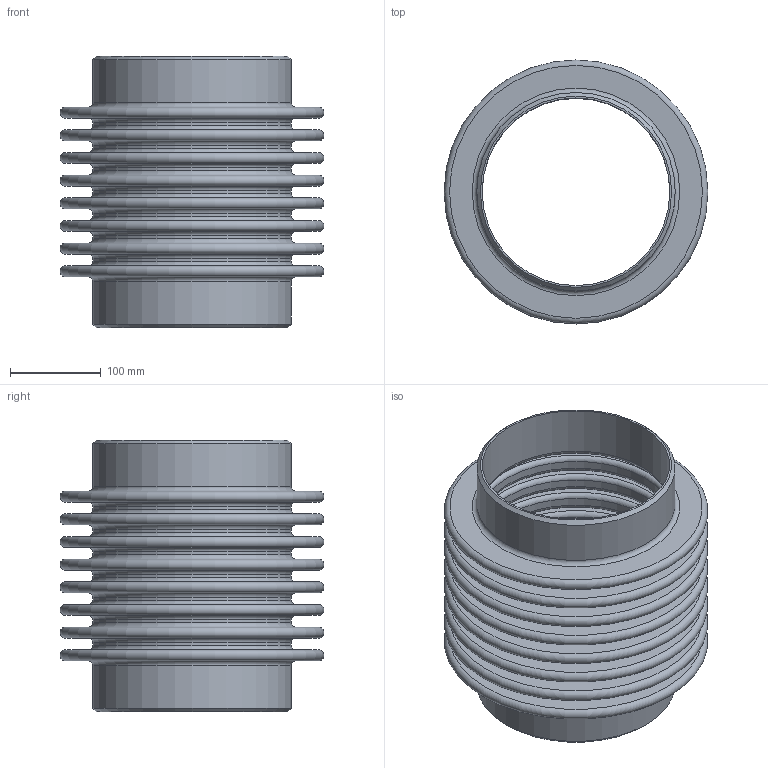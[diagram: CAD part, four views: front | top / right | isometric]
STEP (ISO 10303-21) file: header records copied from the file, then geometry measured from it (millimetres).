
FILE_DESCRIPTION(/* description */ ('D140-02127','CAx-IF Rec.Pracs.---Representation and Presentation of Product Manufacturing Information (PMI)---4.0---2014-10-13'),/* implementation_level */ '2;1');
FILE_NAME(/* name */ '',/* time_stamp */ '2026-04-13T21:39:18+03:00',/* author */ ('DN.RU'),/* organization */ ('DN.RU'),/* preprocessor_version */ 'ST-DEVELOPER v20',/* originating_system */ 'Autodesk Inventor 2025',/* authorisation */ '');
FILE_SCHEMA (('AP242_MANAGED_MODEL_BASED_3D_ENGINEERING_MIM_LF { 1 0 10303 442 1 1 4 }'));
Length unit declared in the file: millimetre
Products named in the file (1): CB-3131-W
Bounding box: 291 x 291 x 300 mm (x, y, z)
Volume: 2169648 mm3; surface area: 1255647.4 mm2
Topology: 1 solids, 1 shells, 306 faces, 753 edges, 502 vertices
Faces by surface type: plane 123, bspline 94, torus 48, cylinder 39, cone 2
Full cylindrical faces by diameter (mm): 207 x2, 213 x7, 219 x9
Entity records: 13423 total; most frequent: CARTESIAN_POINT 5871, ORIENTED_EDGE 1506, DIRECTION 1323, EDGE_CURVE 753, AXIS2_PLACEMENT_3D 516, VERTEX_POINT 502, STYLED_ITEM 376, EDGE_LOOP 361
